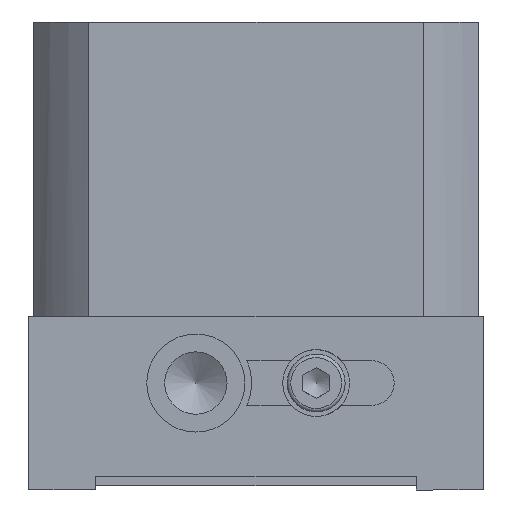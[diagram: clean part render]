
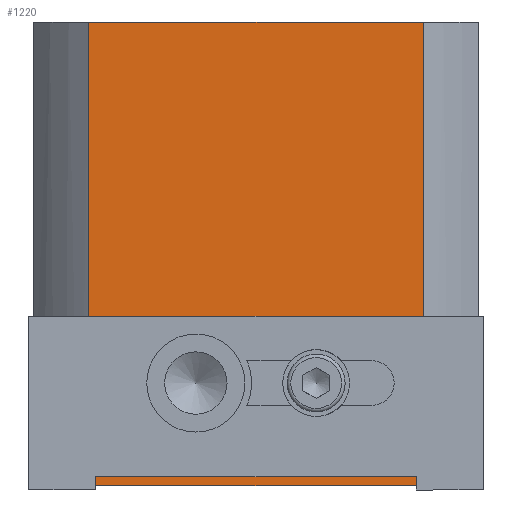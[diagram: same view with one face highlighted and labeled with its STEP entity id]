
A CAD part, left-side view. The second image highlights one B-rep face of the part: STEP entity #1220.
In plain terms, the highlighted planar face has unit normal (-1, 0, 0).
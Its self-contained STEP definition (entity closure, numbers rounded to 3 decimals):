
#1159=CARTESIAN_POINT('',(-50.0,87.5,0.0));
#1160=DIRECTION('',(-1.0,0.0,0.0));
#1161=DIRECTION('',(0.0,0.0,1.0));
#1162=AXIS2_PLACEMENT_3D('',#1159,#1160,#1161);
#1163=PLANE('',#1162);
#1164=CARTESIAN_POINT('',(-50.0,12.5,0.0));
#1165=VERTEX_POINT('',#1164);
#1166=CARTESIAN_POINT('',(-50.,12.5,-104.0));
#1167=VERTEX_POINT('',#1166);
#1168=CARTESIAN_POINT('',(-50.0,12.5,0.0));
#1169=DIRECTION('',(0.0,0.0,-1.0));
#1170=VECTOR('',#1169,104.0);
#1171=LINE('',#1168,#1170);
#1172=EDGE_CURVE('',#1165,#1167,#1171,.T.);
#1173=ORIENTED_EDGE('',*,*,#1172,.F.);
#1174=CARTESIAN_POINT('',(-50.0,87.5,0.0));
#1175=VERTEX_POINT('',#1174);
#1176=CARTESIAN_POINT('',(-50.0,87.5,0.0));
#1177=DIRECTION('',(0.0,-1.0,0.0));
#1178=VECTOR('',#1177,75.0);
#1179=LINE('',#1176,#1178);
#1180=EDGE_CURVE('',#1175,#1165,#1179,.T.);
#1181=ORIENTED_EDGE('',*,*,#1180,.F.);
#1182=CARTESIAN_POINT('',(-50.,87.5,-104.0));
#1183=VERTEX_POINT('',#1182);
#1184=CARTESIAN_POINT('',(-50.0,87.5,0.0));
#1185=DIRECTION('',(0.0,0.0,-1.0));
#1186=VECTOR('',#1185,104.0);
#1187=LINE('',#1184,#1186);
#1188=EDGE_CURVE('',#1175,#1183,#1187,.T.);
#1189=ORIENTED_EDGE('',*,*,#1188,.T.);
#1190=CARTESIAN_POINT('',(-50.,87.5,-104.0));
#1191=DIRECTION('',(0.0,-1.0,0.0));
#1192=VECTOR('',#1191,75.);
#1193=LINE('',#1190,#1192);
#1194=EDGE_CURVE('',#1183,#1167,#1193,.T.);
#1195=ORIENTED_EDGE('',*,*,#1194,.T.);
#1196=EDGE_LOOP('',(#1173,#1181,#1189,#1195));
#1197=FACE_OUTER_BOUND('',#1196,.T.);
#1198=CARTESIAN_POINT('',(-50.,63.5,-70.));
#1199=VERTEX_POINT('',#1198);
#1200=CARTESIAN_POINT('',(-50.,63.5,-81.));
#1201=DIRECTION('',(-1.0,0.0,0.0));
#1202=DIRECTION('',(0.0,1.0,0.0));
#1203=AXIS2_PLACEMENT_3D('',#1200,#1201,#1202);
#1204=CIRCLE('',#1203,11.0);
#1205=EDGE_CURVE('',#1199,#1199,#1204,.T.);
#1206=ORIENTED_EDGE('',*,*,#1205,.F.);
#1207=EDGE_LOOP('',(#1206));
#1208=FACE_BOUND('',#1207,.T.);
#1209=CARTESIAN_POINT('',(-50.,36.5,-70.));
#1210=VERTEX_POINT('',#1209);
#1211=CARTESIAN_POINT('',(-50.,36.5,-81.));
#1212=DIRECTION('',(-1.0,0.0,0.0));
#1213=DIRECTION('',(0.0,-1.0,0.0));
#1214=AXIS2_PLACEMENT_3D('',#1211,#1212,#1213);
#1215=CIRCLE('',#1214,11.0);
#1216=EDGE_CURVE('',#1210,#1210,#1215,.T.);
#1217=ORIENTED_EDGE('',*,*,#1216,.F.);
#1218=EDGE_LOOP('',(#1217));
#1219=FACE_BOUND('',#1218,.T.);
#1220=ADVANCED_FACE('',(#1197,#1208,#1219),#1163,.T.);
